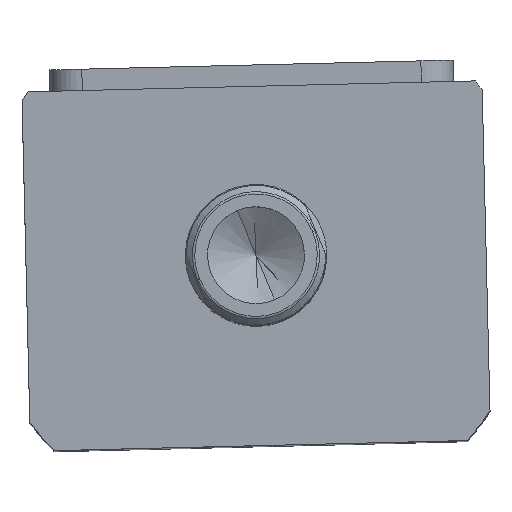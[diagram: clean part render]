
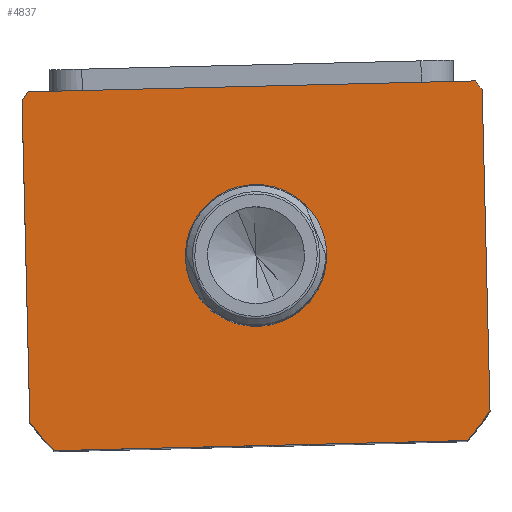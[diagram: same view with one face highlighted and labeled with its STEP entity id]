
A CAD part, top view. The second image highlights one B-rep face of the part: STEP entity #4837.
In plain terms, the highlighted planar face has unit normal (0, 0, 1) as drawn and (0, 0, -1) by its records, which use the part's own axes.
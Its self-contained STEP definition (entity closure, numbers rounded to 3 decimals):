
#298 = AXIS2_PLACEMENT_3D ( 'NONE', #16660, #2042, #12312 ) ;
#776 = CARTESIAN_POINT ( 'NONE',  ( 57., -37.265, 0. ) ) ;
#1137 = CARTESIAN_POINT ( 'NONE',  ( -57., 44.5, 0. ) ) ;
#1273 = ORIENTED_EDGE ( 'NONE', *, *, #13463, .F. ) ;
#1410 = LINE ( 'NONE', #17819, #8744 ) ;
#1440 = DIRECTION ( 'NONE',  ( 1., 0., 0. ) ) ;
#1716 = ORIENTED_EDGE ( 'NONE', *, *, #5120, .F. ) ;
#1756 = EDGE_LOOP ( 'NONE', ( #10408, #8940 ) ) ;
#1838 = CARTESIAN_POINT ( 'NONE',  ( 0., 2.5, 0. ) ) ;
#1851 = CARTESIAN_POINT ( 'NONE',  ( 0., 2.5, 0. ) ) ;
#2042 = DIRECTION ( 'NONE',  ( 0., 0., 1. ) ) ;
#2050 = CIRCLE ( 'NONE', #10147, 69.5 ) ;
#2170 = VERTEX_POINT ( 'NONE', #2201 ) ;
#2201 = CARTESIAN_POINT ( 'NONE',  ( -55.374, 44.5, 0. ) ) ;
#2219 = CARTESIAN_POINT ( 'NONE',  ( 57., 44.5, 0. ) ) ;
#2273 = EDGE_CURVE ( 'NONE', #9904, #17186, #13117, .T. ) ;
#2480 = VECTOR ( 'NONE', #17984, 1000. ) ;
#2533 = FACE_OUTER_BOUND ( 'NONE', #4518, .T. ) ;
#2874 = VERTEX_POINT ( 'NONE', #5688 ) ;
#3164 = CARTESIAN_POINT ( 'NONE',  ( 57., 42.265, 0. ) ) ;
#3289 = AXIS2_PLACEMENT_3D ( 'NONE', #18971, #10219, #1440 ) ;
#3312 = DIRECTION ( 'NONE',  ( 1., 0., 0. ) ) ;
#3319 = DIRECTION ( 'NONE',  ( 1., 0., 0. ) ) ;
#4419 = CARTESIAN_POINT ( 'NONE',  ( -57., -37.265, 0. ) ) ;
#4518 = EDGE_LOOP ( 'NONE', ( #6431, #5171, #1716, #5418, #1273, #18890, #6275, #11771 ) ) ;
#4742 = EDGE_CURVE ( 'NONE', #2170, #13175, #14688, .T. ) ;
#4837 = ADVANCED_FACE ( 'NONE', ( #10320, #2533 ), #9170, .F. ) ;
#5120 = EDGE_CURVE ( 'NONE', #9583, #8075, #2050, .T. ) ;
#5171 = ORIENTED_EDGE ( 'NONE', *, *, #6938, .F. ) ;
#5176 = DIRECTION ( 'NONE',  ( 0., 1., 0. ) ) ;
#5418 = ORIENTED_EDGE ( 'NONE', *, *, #10615, .F. ) ;
#5461 = CARTESIAN_POINT ( 'NONE',  ( 0., 2.5, 0. ) ) ;
#5593 = CARTESIAN_POINT ( 'NONE',  ( 51.198, -44.5, 0. ) ) ;
#5688 = CARTESIAN_POINT ( 'NONE',  ( 55.374, 44.5, 0. ) ) ;
#6275 = ORIENTED_EDGE ( 'NONE', *, *, #4742, .F. ) ;
#6279 = CARTESIAN_POINT ( 'NONE',  ( -57., 44.5, 0. ) ) ;
#6431 = ORIENTED_EDGE ( 'NONE', *, *, #16600, .F. ) ;
#6931 = DIRECTION ( 'NONE',  ( 1., 0., 0. ) ) ;
#6938 = EDGE_CURVE ( 'NONE', #8075, #14577, #13510, .T. ) ;
#7028 = VECTOR ( 'NONE', #17266, 1000. ) ;
#7294 = CARTESIAN_POINT ( 'NONE',  ( -57., 42.265, 0. ) ) ;
#7803 = DIRECTION ( 'NONE',  ( 0., 0., 1. ) ) ;
#8075 = VERTEX_POINT ( 'NONE', #776 ) ;
#8378 = CARTESIAN_POINT ( 'NONE',  ( 17.5, 2.5, 0. ) ) ;
#8744 = VECTOR ( 'NONE', #9063, 1000. ) ;
#8940 = ORIENTED_EDGE ( 'NONE', *, *, #2273, .T. ) ;
#8967 = CARTESIAN_POINT ( 'NONE',  ( -17.5, 2.5, 0. ) ) ;
#9063 = DIRECTION ( 'NONE',  ( 1., 0., 0. ) ) ;
#9170 = PLANE ( 'NONE',  #298 ) ;
#9198 = AXIS2_PLACEMENT_3D ( 'NONE', #1838, #12100, #3312 ) ;
#9583 = VERTEX_POINT ( 'NONE', #5593 ) ;
#9795 = VERTEX_POINT ( 'NONE', #4419 ) ;
#9904 = VERTEX_POINT ( 'NONE', #8967 ) ;
#9954 = AXIS2_PLACEMENT_3D ( 'NONE', #1851, #12113, #3319 ) ;
#10147 = AXIS2_PLACEMENT_3D ( 'NONE', #5461, #15714, #6931 ) ;
#10219 = DIRECTION ( 'NONE',  ( 0., 0., 1. ) ) ;
#10271 = CIRCLE ( 'NONE', #9954, 69.5 ) ;
#10320 = FACE_BOUND ( 'NONE', #1756, .T. ) ;
#10392 = EDGE_CURVE ( 'NONE', #17186, #9904, #17445, .T. ) ;
#10408 = ORIENTED_EDGE ( 'NONE', *, *, #10392, .T. ) ;
#10615 = EDGE_CURVE ( 'NONE', #17086, #9583, #1410, .T. ) ;
#11503 = AXIS2_PLACEMENT_3D ( 'NONE', #16592, #7803, #18056 ) ;
#11771 = ORIENTED_EDGE ( 'NONE', *, *, #13578, .F. ) ;
#12100 = DIRECTION ( 'NONE',  ( 0., 0., 1. ) ) ;
#12113 = DIRECTION ( 'NONE',  ( 0., 0., 1. ) ) ;
#12312 = DIRECTION ( 'NONE',  ( 1., 0., 0. ) ) ;
#12797 = LINE ( 'NONE', #1137, #7028 ) ;
#13117 = CIRCLE ( 'NONE', #17660, 17.5 ) ;
#13175 = VERTEX_POINT ( 'NONE', #7294 ) ;
#13217 = CIRCLE ( 'NONE', #9198, 69.5 ) ;
#13463 = EDGE_CURVE ( 'NONE', #9795, #17086, #10271, .T. ) ;
#13510 = LINE ( 'NONE', #2219, #16470 ) ;
#13578 = EDGE_CURVE ( 'NONE', #2874, #2170, #17586, .T. ) ;
#14577 = VERTEX_POINT ( 'NONE', #3164 ) ;
#14688 = CIRCLE ( 'NONE', #11503, 69.5 ) ;
#15062 = EDGE_CURVE ( 'NONE', #13175, #9795, #12797, .T. ) ;
#15714 = DIRECTION ( 'NONE',  ( 0., 0., 1. ) ) ;
#16470 = VECTOR ( 'NONE', #5176, 1000. ) ;
#16592 = CARTESIAN_POINT ( 'NONE',  ( 0., 2.5, 0. ) ) ;
#16600 = EDGE_CURVE ( 'NONE', #14577, #2874, #13217, .T. ) ;
#16660 = CARTESIAN_POINT ( 'NONE',  ( 0., 0., 0. ) ) ;
#16879 = CARTESIAN_POINT ( 'NONE',  ( 0., 2.5, 0. ) ) ;
#16941 = DIRECTION ( 'NONE',  ( 0., 0., 1. ) ) ;
#17007 = DIRECTION ( 'NONE',  ( 1., 0., 0. ) ) ;
#17023 = CARTESIAN_POINT ( 'NONE',  ( -51.198, -44.5, 0. ) ) ;
#17086 = VERTEX_POINT ( 'NONE', #17023 ) ;
#17186 = VERTEX_POINT ( 'NONE', #8378 ) ;
#17266 = DIRECTION ( 'NONE',  ( 0., -1., 0. ) ) ;
#17445 = CIRCLE ( 'NONE', #3289, 17.5 ) ;
#17586 = LINE ( 'NONE', #6279, #2480 ) ;
#17660 = AXIS2_PLACEMENT_3D ( 'NONE', #16879, #16941, #17007 ) ;
#17819 = CARTESIAN_POINT ( 'NONE',  ( -57., -44.5, 0. ) ) ;
#17984 = DIRECTION ( 'NONE',  ( -1., 0., 0. ) ) ;
#18056 = DIRECTION ( 'NONE',  ( 1., 0., 0. ) ) ;
#18890 = ORIENTED_EDGE ( 'NONE', *, *, #15062, .F. ) ;
#18971 = CARTESIAN_POINT ( 'NONE',  ( 0., 2.5, 0. ) ) ;
